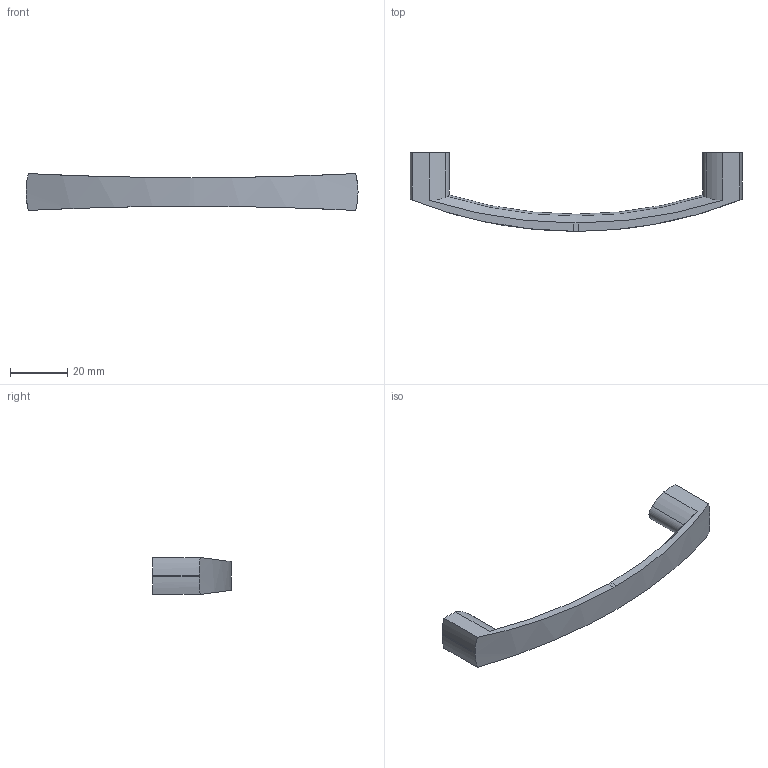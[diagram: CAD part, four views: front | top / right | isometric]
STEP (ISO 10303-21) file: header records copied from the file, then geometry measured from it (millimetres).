
FILE_DESCRIPTION( ( '' ), '1' );
FILE_NAME( 'D:/1.AUTOCAD EXPORT/Group 10/sheet_10_1/9113431.stp', '2013-10-18T09:03:32', ( '' ), ( '' ), ' ', ' ', ' ' );
FILE_SCHEMA( ( 'automotive_design' ) );
Length unit declared in the file: millimetre
Products named in the file (1): 1
Bounding box: 116 x 27.5 x 12.88 mm (x, y, z)
Volume: 9592.5 mm3; surface area: 5014.3 mm2
Topology: 1 solids, 1 shells, 31 faces, 81 edges, 54 vertices
Faces by surface type: cylinder 21, plane 6, torus 2, cone 2
Entity records: 2167 total; most frequent: CARTESIAN_POINT 483, STYLED_ITEM 167, PRESENTATION_STYLE_ASSIGNMENT 167, COLOUR_RGB 167, ORIENTED_EDGE 162, DIRECTION 142, EDGE_CURVE 81, CURVE_STYLE 81
